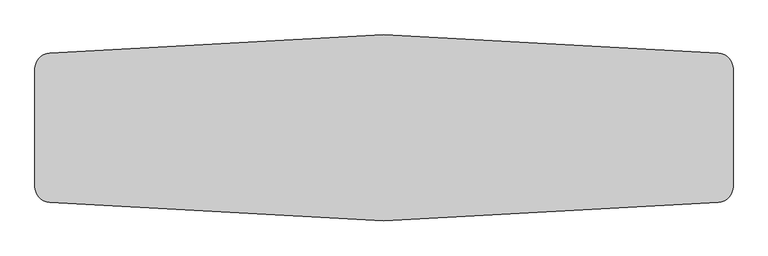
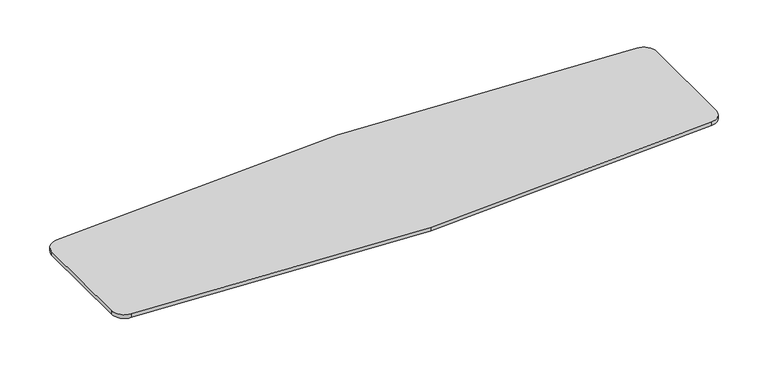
"""IFC4 building model written with IfcOpenShell, lengths in millimetres: furniture geometry, Steelcase - Answer Solution - Universal Table - Hex Conference : 48D x 180W."""

import ifcopenshell
import ifcopenshell.guid

model = None  # the IFC model being written
_history = None  # IfcOwnerHistory: only IFC2X3 demands one
_inside = {}  # id of a spatial element -> (the spatial element, [elements in it])
_under = {}  # id of a project, library or spatial element -> (it, [spatial elements below it])
_declared = {}  # id of a project -> (the project, [libraries it declares])
_typed = {}  # id of a type object -> (the type object, [elements of that type])
_made_of = {}  # id of a material, layer set ... -> (it, [elements and type objects made of it])


def new_model(schema):
    """Start an empty IFC model of exactly this schema.

    Asked for "IFC4X3", IfcOpenShell would pick the latest addendum, in which some entities
    have other attributes; the version numbers below select the first issue.
    IFC2X3 requires an IfcOwnerHistory on every rooted entity: one is made here for all.
    """
    global model, _history
    if schema == "IFC4X3":
        model = ifcopenshell.file(schema_version=(4, 3, 0, 0))
    else:
        model = ifcopenshell.file(schema=schema)
    _inside.clear()
    _under.clear()
    _declared.clear()
    _typed.clear()
    _made_of.clear()
    _history = None
    if model.schema == "IFC2X3":
        org = make("IfcOrganization", Name="unknown")
        user = make(
            "IfcPersonAndOrganization",
            ThePerson=make("IfcPerson", FamilyName="unknown"),
            TheOrganization=org,
        )
        app = make(
            "IfcApplication",
            ApplicationDeveloper=org,
            Version="unknown",
            ApplicationFullName="unknown",
            ApplicationIdentifier="unknown",
        )
        _history = make(
            "IfcOwnerHistory",
            OwningUser=user,
            OwningApplication=app,
            ChangeAction="ADDED",
            CreationDate=0,
        )
    return model


def make(cls, **values):
    """One entity of the class cls with the attributes given. An attribute that is None is left unset."""
    return model.create_entity(
        cls, **{name: value for name, value in values.items() if value is not None}
    )


def rooted(cls, **values):
    """An entity with a GlobalId (a new one), such as an element, a storey or a relation."""
    return make(cls, GlobalId=ifcopenshell.guid.new(), OwnerHistory=_history, **values)


def si_unit(unit_type, name, prefix=None):
    """IfcSIUnit, for example si_unit("LENGTHUNIT", "METRE", prefix="MILLI")."""
    return make("IfcSIUnit", UnitType=unit_type, Prefix=prefix, Name=name)


def assignment(units):
    """IfcUnitAssignment: the units of a project."""
    return None if units is None else make("IfcUnitAssignment", Units=units)


def point(xyz):
    """IfcCartesianPoint."""
    return None if xyz is None else make("IfcCartesianPoint", Coordinates=xyz)


def direction(xyz):
    """IfcDirection."""
    return None if xyz is None else make("IfcDirection", DirectionRatios=xyz)


def frame(location, z_axis=None, x_axis=None):
    """IfcAxis2Placement3D, a coordinate frame: its origin and axes. An axis left out is left unset."""
    return make(
        "IfcAxis2Placement3D",
        Location=point(location),
        Axis=direction(z_axis),
        RefDirection=direction(x_axis),
    )


def frame_2d(location, x_axis=None):
    """IfcAxis2Placement2D, a coordinate frame in the plane: its origin and x axis."""
    return make(
        "IfcAxis2Placement2D", Location=point(location), RefDirection=direction(x_axis)
    )


def origin():
    """The frame at (0, 0, 0) with its axes left unset."""
    return frame((0.0, 0.0, 0.0))


def place(relative_to, where):
    """IfcLocalPlacement: puts the frame where relative to a parent placement (None: the world)."""
    return make(
        "IfcLocalPlacement", PlacementRelTo=relative_to, RelativePlacement=where
    )


def context(
    kind, dimensions, precision=None, world=None, true_north=None, identifier=None
):
    """IfcGeometricRepresentationContext, for example the 3D "Model" context."""
    return make(
        "IfcGeometricRepresentationContext",
        ContextIdentifier=identifier,
        ContextType=kind,
        CoordinateSpaceDimension=dimensions,
        Precision=precision,
        WorldCoordinateSystem=world,
        TrueNorth=true_north,
    )


def project(units=None, contexts=None):
    """IfcProject with its units and contexts."""
    return rooted(
        "IfcProject",
        Name="project",
        RepresentationContexts=contexts,
        UnitsInContext=assignment(units),
    )


def spatial(cls, under=None, at=None, **own):
    """A site, building, storey or space (cls), placed at a placement, below another one or the project."""
    s = rooted(cls, ObjectPlacement=at, **own)
    if under is not None:
        _under.setdefault(under.id(), (under, []))[1].append(s)
    return s


def polyline(points):
    """IfcPolyline through the points."""
    return make("IfcPolyline", Points=[point(p) for p in points])


def circle_curve(where, radius):
    """IfcCircle in the frame where."""
    return make("IfcCircle", Position=where, Radius=radius)


def trimmed(basis, trim1, trim2, sense, master):
    """IfcTrimmedCurve: the piece of a basis curve between two trims."""
    return make(
        "IfcTrimmedCurve",
        BasisCurve=basis,
        Trim1=trim1,
        Trim2=trim2,
        SenseAgreement=sense,
        MasterRepresentation=master,
    )


def segment(curve, same_sense, transition):
    """IfcCompositeCurveSegment."""
    return make(
        "IfcCompositeCurveSegment",
        Transition=transition,
        SameSense=same_sense,
        ParentCurve=curve,
    )


def composite_curve(segments, self_intersect=None):
    """IfcCompositeCurve: segments joined end to end."""
    return make("IfcCompositeCurve", Segments=segments, SelfIntersect=self_intersect)


def outline(outer, holes=None, kind="AREA"):
    """IfcArbitraryClosedProfileDef: a profile drawn as a closed curve; with holes, ...WithVoids."""
    if holes is None:
        return make("IfcArbitraryClosedProfileDef", ProfileType=kind, OuterCurve=outer)
    return make(
        "IfcArbitraryProfileDefWithVoids",
        ProfileType=kind,
        OuterCurve=outer,
        InnerCurves=holes,
    )


def extrude(swept, where, along, depth):
    """IfcExtrudedAreaSolid: the profile swept, set in the frame where, extruded along a direction by depth."""
    return make(
        "IfcExtrudedAreaSolid",
        SweptArea=swept,
        Position=where,
        ExtrudedDirection=direction(along),
        Depth=depth,
    )


def shape(context_of_items, identifier, shape_type, items):
    """IfcShapeRepresentation: the items that make up one representation, for example the "Body"."""
    return make(
        "IfcShapeRepresentation",
        ContextOfItems=context_of_items,
        RepresentationIdentifier=identifier,
        RepresentationType=shape_type,
        Items=items,
    )


def source(mapping_origin, context_of_items, identifier, shape_type, items):
    """IfcRepresentationMap: a shape defined once, which mapped items show again and again."""
    return make(
        "IfcRepresentationMap",
        MappingOrigin=mapping_origin,
        MappedRepresentation=shape(context_of_items, identifier, shape_type, items),
    )


def transform(
    local_origin,
    x_axis=None,
    y_axis=None,
    z_axis=None,
    scale=None,
    scale2=None,
    scale3=None,
    uniform=True,
):
    """IfcCartesianTransformationOperator3D, or its non-uniform kind. x_axis, y_axis, z_axis: its Axis1, 2, 3."""
    if uniform:
        return make(
            "IfcCartesianTransformationOperator3D",
            Axis1=direction(x_axis),
            Axis2=direction(y_axis),
            LocalOrigin=point(local_origin),
            Scale=scale,
            Axis3=direction(z_axis),
        )
    return make(
        "IfcCartesianTransformationOperator3DnonUniform",
        Axis1=direction(x_axis),
        Axis2=direction(y_axis),
        LocalOrigin=point(local_origin),
        Scale=scale,
        Axis3=direction(z_axis),
        Scale2=scale2,
        Scale3=scale3,
    )


def mapped(mapping_source, mapping_target):
    """IfcMappedItem: shows the shape of a source again, moved by a transform."""
    return make(
        "IfcMappedItem", MappingSource=mapping_source, MappingTarget=mapping_target
    )


def made_of(thing, what):
    """Note that an element or type object is made of a material, layer set ...; save() writes the relation."""
    if what is not None:
        _made_of.setdefault(what.id(), (what, []))[1].append(thing)
    return thing


def element(
    cls,
    number,
    at=None,
    inside=None,
    cuts=None,
    type_object=None,
    material=None,
    context=None,
    identifier="Body",
    shape_type=None,
    held_by="IfcProductDefinitionShape",
    body=None,
    shapes=None,
    **own,
):
    """One element of the class cls, such as IfcWall. Its Tag is "e" and its number.

    at: its placement. inside: the storey or other place that contains it. cuts: it is an
    opening in that element (IfcRelVoidsElement). A single representation is given by context,
    identifier, shape_type and body (its items); several are given by shapes. held_by: the class
    of the entity that holds the representations. save() writes the other relations.
    """
    e = rooted(cls, Tag="e%d" % number, ObjectPlacement=at, **own)
    if body is not None:
        shapes = [shape(context, identifier, shape_type, body)]
    if shapes is not None:
        e.Representation = make(held_by, Representations=shapes)
    if inside is not None:
        _inside.setdefault(inside.id(), (inside, []))[1].append(e)
    if cuts is not None:
        rooted(
            "IfcRelVoidsElement", RelatingBuildingElement=cuts, RelatedOpeningElement=e
        )
    if type_object is not None:
        _typed.setdefault(type_object.id(), (type_object, []))[1].append(e)
    return made_of(e, material)


def aggregate(whole, parts):
    """IfcRelAggregates: a whole, such as a stair, and the parts it consists of."""
    return rooted("IfcRelAggregates", RelatingObject=whole, RelatedObjects=parts)


def save(model, path):
    """Write the relations noted so far, then the file.

    IfcRelAggregates (storeys below a building ...), IfcRelContainedInSpatialStructure (elements
    in a storey), IfcRelDefinesByType, IfcRelAssociatesMaterial and IfcRelDeclares: one each for
    every whole, place, type object, material and project.
    """
    for whole, parts in _under.values():
        aggregate(whole, parts)
    for where, things in _inside.values():
        rooted(
            "IfcRelContainedInSpatialStructure",
            RelatedElements=things,
            RelatingStructure=where,
        )
    for kind, things in _typed.values():
        rooted("IfcRelDefinesByType", RelatedObjects=things, RelatingType=kind)
    for what, things in _made_of.values():
        rooted("IfcRelAssociatesMaterial", RelatedObjects=things, RelatingMaterial=what)
    for by, libraries in _declared.values():
        rooted("IfcRelDeclares", RelatingContext=by, RelatedDefinitions=libraries)
    model.write(path)


def furniture_98b74d04(model_context):
    return source(origin(), model_context, "Body", "SweptSolid", [
        extrude(outline(composite_curve([segment(trimmed(circle_curve(frame_2d((98.425, -353.5314557)), 101.6), [point((-3.175, -353.5314557))], [point((92.789246, -252.0878838))], False, "CARTESIAN"), True, "CONTINUOUS"), segment(polyline([(92.789246, -252.0878838), (2282.825, -130.4192308), (4472.860754, -252.0878838)]), True, "CONTINUOUS"), segment(trimmed(circle_curve(frame_2d((4467.225, -353.5314557)), 101.6), [point((4472.860754, -252.0878838))], [point((4568.825, -353.5314557))], False, "CARTESIAN"), True, "CONTINUOUS"), segment(polyline([(4568.825, -353.5314557), (4568.825, -1126.5070059)]), True, "CONTINUOUS"), segment(trimmed(circle_curve(frame_2d((4467.225, -1126.5070059)), 101.6), [point((4568.825, -1126.5070059))], [point((4472.860754, -1227.9505778))], False, "CARTESIAN"), True, "CONTINUOUS"), segment(polyline([(4472.860754, -1227.9505778), (2282.825, -1349.6192308), (92.789246, -1227.9505778)]), True, "CONTINUOUS"), segment(trimmed(circle_curve(frame_2d((98.425, -1126.5070059)), 101.6), [point((92.789246, -1227.9505778))], [point((-3.175, -1126.5070059))], False, "CARTESIAN"), True, "CONTINUOUS"), segment(polyline([(-3.175, -1126.5070059), (-3.175, -353.5314557)]), True, "CONTINUOUS")], self_intersect=False)), frame((0.0, 0.0, 668.274), z_axis=(0.0, 0.0, 1.0), x_axis=(1.0, 0.0, 0.0)), (0.0, 0.0, 1.0), 28.575),
    ])


if __name__ == "__main__":
    model = new_model("IFC4")
    model_context = context("Model", 3, world=origin())
    ifc_project = project(units=[si_unit("LENGTHUNIT", "METRE", prefix="MILLI")], contexts=[model_context])
    site = spatial("IfcSite", under=ifc_project)
    building = spatial("IfcBuilding", under=site)
    placement = place(None, origin())
    furniture_shape = furniture_98b74d04(model_context)
    element("IfcFurniture", 1, ObjectType="Steelcase - Answer Solution - Universal Table - Hex Conference : 48D x 180W", at=placement, inside=building, context=model_context, shape_type="MappedRepresentation", body=[
        mapped(furniture_shape, transform((0.0, 0.0, 0.0), x_axis=(1.0, 0.0, 0.0), y_axis=(0.0, 1.0, 0.0), z_axis=(0.0, 0.0, 1.0))),
    ])
    save(model, "model.ifc")
